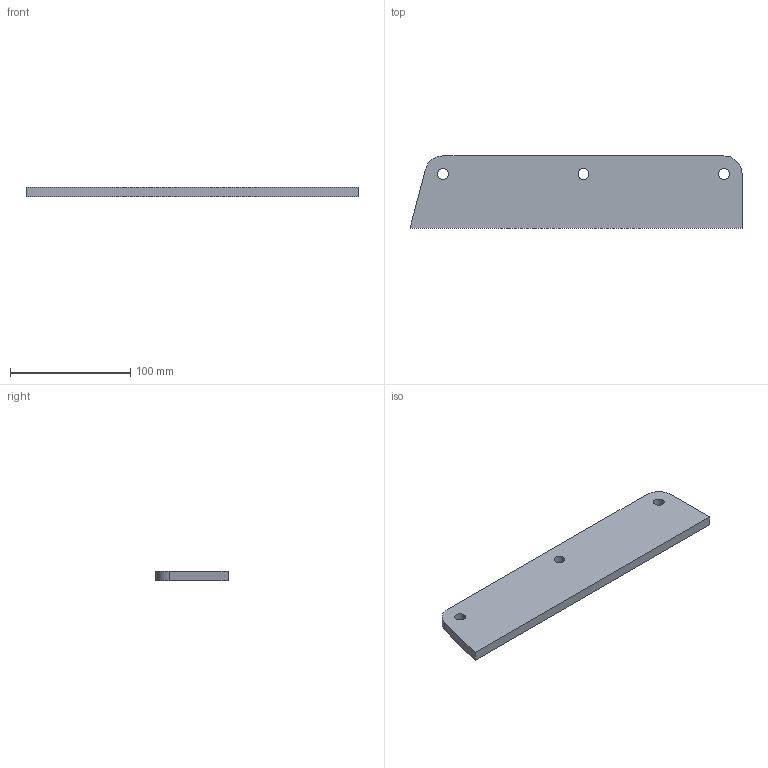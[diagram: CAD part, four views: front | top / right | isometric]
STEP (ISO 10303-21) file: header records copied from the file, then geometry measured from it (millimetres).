
FILE_DESCRIPTION(/* description */ (''),/* implementation_level */ '2;1');
FILE_NAME(/* name */ 'Pos141-Plaatwerk D= 8-S235JRG2-3st',/* time_stamp */ '2024-08-06T13:37:44+02:00',/* author */ (''),/* organization */ (''),/* preprocessor_version */ 'ST-DEVELOPER v16.5',/* originating_system */ 'HiCAD 2024 2901.2 Build 361',/* authorisation */ '');
FILE_SCHEMA (('AUTOMOTIVE_DESIGN { 1 0 10303 214 1 1 1 1 }'));
Length unit declared in the file: millimetre
Products named in the file (1): Pos141-Plaatwerk D= 8-S235JRG2-3st
Bounding box: 276.03 x 60 x 8 mm (x, y, z)
Volume: 126571.8 mm3; surface area: 37508.8 mm2
Topology: 1 solids, 1 shells, 11 faces, 30 edges, 21 vertices
Faces by surface type: plane 6, cylinder 5
Full cylindrical faces by diameter (mm): 9 x3
Entity records: 586 total; most frequent: DIRECTION 56, CARTESIAN_POINT 53, PRESENTATION_STYLE_ASSIGNMENT 49, COLOUR_RGB 49, DRAUGHTING_PRE_DEFINED_CURVE_FONT 48, CURVE_STYLE 48, OVER_RIDING_STYLED_ITEM 48, ORIENTED_EDGE 48
